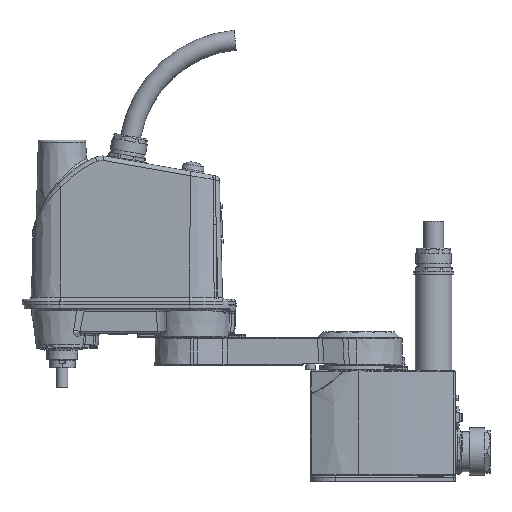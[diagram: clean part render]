
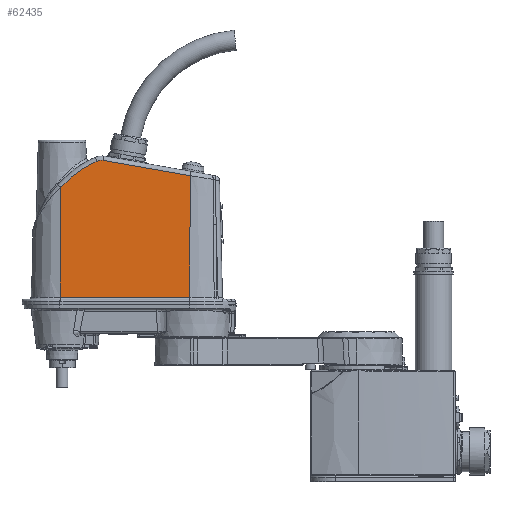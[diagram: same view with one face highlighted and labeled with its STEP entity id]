
A CAD part, top view. The second image highlights one B-rep face of the part: STEP entity #62435.
In plain terms, the highlighted planar face has unit normal (-0.051, 0.026, 0.998).
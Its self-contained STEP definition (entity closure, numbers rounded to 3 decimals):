
#49833=DIRECTION('',(-0.001,-1.,0.026));
#49834=VECTOR('',#49833,147.874);
#49835=CARTESIAN_POINT('',(-401.952,396.745,
37.898));
#49836=LINE('',#49835,#49834);
#50016=CARTESIAN_POINT('',(-295.332,300.426,
45.914));
#50017=DIRECTION('',(0.051,-0.026,-0.998));
#50018=DIRECTION('',(-0.741,0.669,-0.056));
#50019=AXIS2_PLACEMENT_3D('',#50016,#50017,#50018);
#50021=CARTESIAN_POINT('',(-347.234,419.347,
40.123));
#50022=DIRECTION('',(0.051,-0.026,-0.998));
#50023=DIRECTION('',(-0.4,0.916,-0.045));
#50024=AXIS2_PLACEMENT_3D('',#50021,#50022,#50023);
#50026=DIRECTION('',(0.983,-0.173,0.055));
#50027=VECTOR('',#50026,119.384);
#50028=CARTESIAN_POINT('',(-344.784,433.154,
39.887));
#50029=LINE('',#50028,#50027);
#50030=DIRECTION('',(0.999,0.,0.051));
#50031=VECTOR('',#50030,174.768);
#50032=CARTESIAN_POINT('',(-402.151,248.921,
41.763));
#50033=LINE('',#50032,#50031);
#50044=DIRECTION('',(0.001,1.,-0.026));
#50045=VECTOR('',#50044,163.59);
#50046=CARTESIAN_POINT('',(-227.614,248.921,
50.752));
#50047=LINE('',#50046,#50045);
#54836=CARTESIAN_POINT('',(-344.784,433.154,
39.887));
#54837=VERTEX_POINT('',#54836);
#54838=CARTESIAN_POINT('',(-402.151,248.921,
41.763));
#54839=CARTESIAN_POINT('',(-227.614,248.921,
50.752));
#54840=VERTEX_POINT('',#54838);
#54841=VERTEX_POINT('',#54839);
#54842=CARTESIAN_POINT('',(-401.952,396.745,
37.898));
#54843=CARTESIAN_POINT('',(-352.837,432.188,
39.498));
#54844=VERTEX_POINT('',#54842);
#54845=VERTEX_POINT('',#54843);
#54846=CARTESIAN_POINT('',(-227.393,412.455,
46.475));
#54847=VERTEX_POINT('',#54846);
#62419=CARTESIAN_POINT('',(-314.758,341.145,
43.846));
#62420=DIRECTION('',(-0.051,0.026,0.998));
#62421=DIRECTION('',(-0.999,0.,-0.051));
#62422=AXIS2_PLACEMENT_3D('',#62419,#62420,#62421);
#62423=PLANE('',#62422);
#62425=ORIENTED_EDGE('',*,*,#62424,.F.);
#62426=ORIENTED_EDGE('',*,*,#61841,.F.);
#62427=ORIENTED_EDGE('',*,*,#62382,.T.);
#62428=ORIENTED_EDGE('',*,*,#62402,.T.);
#62430=ORIENTED_EDGE('',*,*,#62429,.T.);
#62432=ORIENTED_EDGE('',*,*,#62431,.F.);
#62433=EDGE_LOOP('',(#62425,#62426,#62427,#62428,#62430,#62432));
#62434=FACE_OUTER_BOUND('',#62433,.F.);
#50020=CIRCLE('',#50019,143.907);
#50025=CIRCLE('',#50024,14.025);
#61841=EDGE_CURVE('',#54844,#54840,#49836,.T.);
#62382=EDGE_CURVE('',#54844,#54845,#50020,.T.);
#62402=EDGE_CURVE('',#54845,#54837,#50025,.T.);
#62424=EDGE_CURVE('',#54840,#54841,#50033,.T.);
#62429=EDGE_CURVE('',#54837,#54847,#50029,.T.);
#62431=EDGE_CURVE('',#54841,#54847,#50047,.T.);
#62435=ADVANCED_FACE('',(#62434),#62423,.T.);
